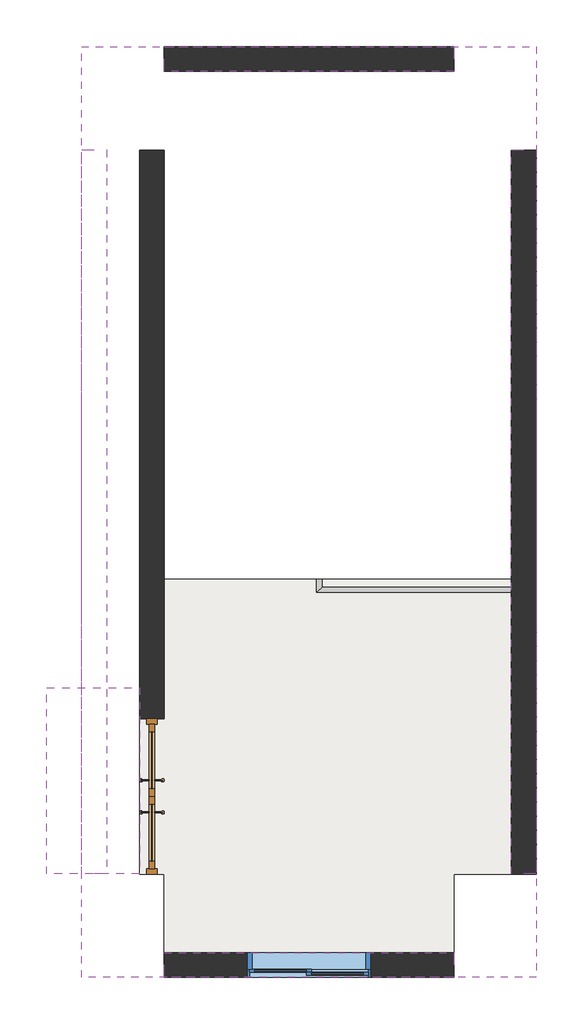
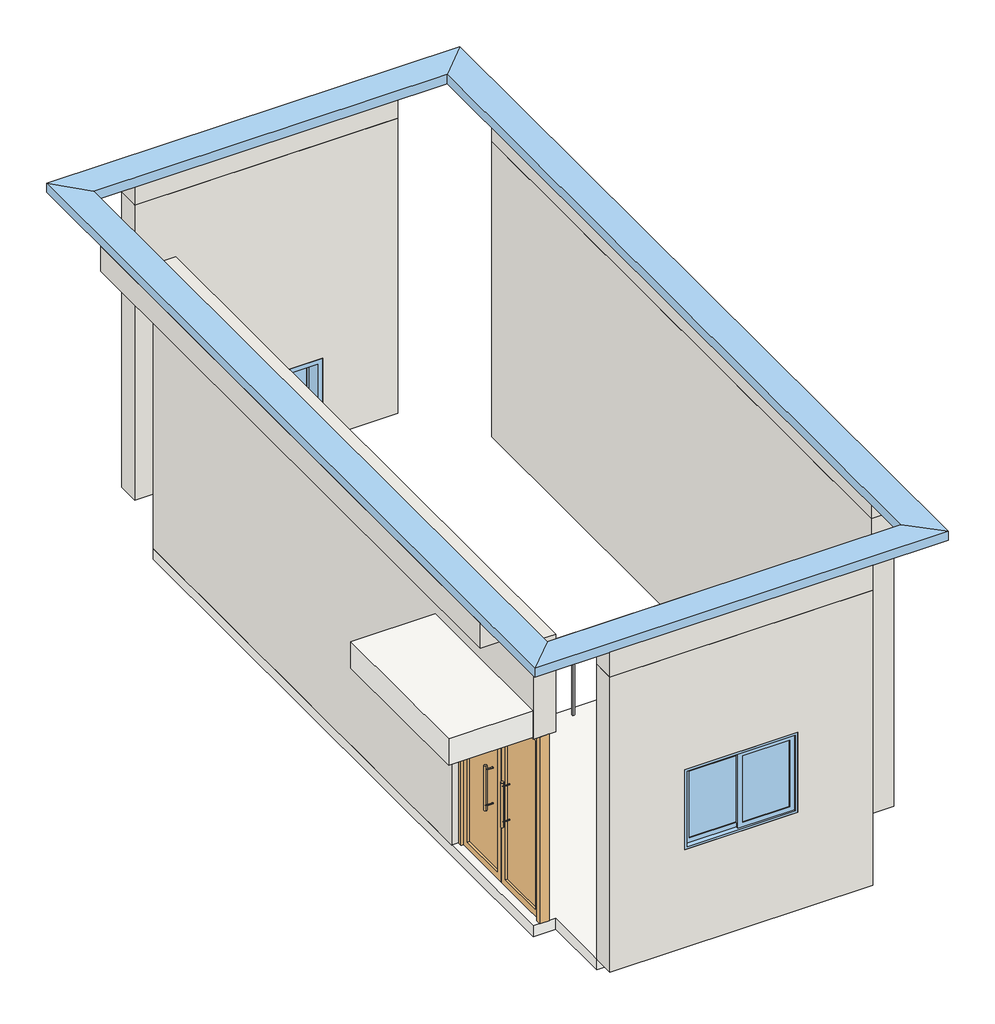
# One storey: 8 walls, 3 windows, 2 slabs, 1 door, 1 railing.
"""IFC4 building model written with IfcOpenShell, lengths in millimetres."""

from ifc_helpers import new_model, si_unit, frame, origin, place, context, project, spatial, polyline, outline, extrude, faceted_brep, transform, mapped, element, save
from components import fm1521_b0fe12bd, window_a61185c5, c1209_ef09aeb5

model = new_model("IFC4")

# Units and contexts
model_context = context("Model", 3, world=origin())
ifc_project = project(units=[si_unit("LENGTHUNIT", "METRE", prefix="MILLI")], contexts=[model_context])

# Site, building, storey
site = spatial("IfcSite", under=ifc_project)
building = spatial("IfcBuilding", under=site)
storey = spatial("IfcBuildingStorey", under=building, Name="四层", Elevation=10500.0)

# Door
placement = place(None, origin())
fm1521_shape = fm1521_b0fe12bd(model_context)
element("IfcDoor", 1, ObjectType="双面嵌板玻璃门 : FM1521", at=placement, inside=storey, context=model_context, shape_type="MappedRepresentation", body=[
    mapped(fm1521_shape, transform((26302.1385293, 1220.1856454, 10500.0), x_axis=(0.0, -1.0, 0.0), y_axis=(1.0, 0.0, 0.0), z_axis=(0.0, 0.0, 1.0))),
])

# Railing
element("IfcRailing", 2, ObjectType="900mm", at=placement, inside=storey, context=model_context, shape_type="SolidModel", body=[
    faceted_brep([(27946.7385293, 3320.1856454, 11400.0), (27946.7385293, 3320.1856454, 11350.0), (27896.7385293, 3320.1856454, 11350.0), (27896.7385293, 3320.1856454, 11400.0), (27946.7385293, 3245.1856454, 11400.0), (27946.7385293, 3245.1856454, 11350.0), (27896.7385293, 3195.1856454, 11350.0), (27896.7385293, 3195.1856454, 11400.0), (29782.1385293, 3245.1856454, 11400.0), (29782.1385293, 3195.1856454, 11400.0), (29782.1385293, 3195.1856454, 11350.0), (29782.1385293, 3245.1856454, 11350.0)], [[[0, 1, 2, 3]], [[1, 0, 4, 5]], [[2, 1, 5, 6]], [[3, 2, 6, 7]], [[0, 3, 7, 4]], [[8, 9, 10, 11]], [[5, 4, 8, 11]], [[6, 5, 11, 10]], [[7, 6, 10, 9]], [[4, 7, 9, 8]]]),
    extrude(outline(polyline([(29561.7385293, 3210.1856454), (29561.7385293, 3230.1856454), (29581.7385293, 3230.1856454), (29581.7385293, 3210.1856454), (29561.7385293, 3210.1856454)])), frame((0.0, 0.0, 10500.0), z_axis=(0.0, 0.0, 1.0), x_axis=(1.0, 0.0, 0.0)), (0.0, 0.0, 1.0), 850.0),
    extrude(outline(polyline([(29286.7385293, 3210.1856454), (29286.7385293, 3230.1856454), (29306.7385293, 3230.1856454), (29306.7385293, 3210.1856454), (29286.7385293, 3210.1856454)])), frame((0.0, 0.0, 10500.0), z_axis=(0.0, 0.0, 1.0), x_axis=(1.0, 0.0, 0.0)), (0.0, 0.0, 1.0), 850.0),
    extrude(outline(polyline([(29011.7385293, 3210.1856454), (29011.7385293, 3230.1856454), (29031.7385293, 3230.1856454), (29031.7385293, 3210.1856454), (29011.7385293, 3210.1856454)])), frame((0.0, 0.0, 10500.0), z_axis=(0.0, 0.0, 1.0), x_axis=(1.0, 0.0, 0.0)), (0.0, 0.0, 1.0), 850.0),
    extrude(outline(polyline([(28736.7385293, 3210.1856454), (28736.7385293, 3230.1856454), (28756.7385293, 3230.1856454), (28756.7385293, 3210.1856454), (28736.7385293, 3210.1856454)])), frame((0.0, 0.0, 10500.0), z_axis=(0.0, 0.0, 1.0), x_axis=(1.0, 0.0, 0.0)), (0.0, 0.0, 1.0), 850.0),
    extrude(outline(polyline([(28461.7385293, 3210.1856454), (28461.7385293, 3230.1856454), (28481.7385293, 3230.1856454), (28481.7385293, 3210.1856454), (28461.7385293, 3210.1856454)])), frame((0.0, 0.0, 10500.0), z_axis=(0.0, 0.0, 1.0), x_axis=(1.0, 0.0, 0.0)), (0.0, 0.0, 1.0), 850.0),
    extrude(outline(polyline([(28186.7385293, 3210.1856454), (28186.7385293, 3230.1856454), (28206.7385293, 3230.1856454), (28206.7385293, 3210.1856454), (28186.7385293, 3210.1856454)])), frame((0.0, 0.0, 10500.0), z_axis=(0.0, 0.0, 1.0), x_axis=(1.0, 0.0, 0.0)), (0.0, 0.0, 1.0), 850.0),
    extrude(outline(polyline([(27911.7385293, 3230.1856454), (27931.7385293, 3230.1856454), (27931.7385293, 3210.1856454), (27911.7385293, 3210.1856454), (27911.7385293, 3230.1856454)])), frame((0.0, 0.0, 10500.0), z_axis=(0.0, 0.0, 1.0), x_axis=(1.0, 0.0, 0.0)), (0.0, 0.0, 1.0), 850.0),
    extrude(outline(polyline([(29762.1385293, 3210.1856454), (29762.1385293, 3230.1856454), (29782.1385293, 3230.1856454), (29782.1385293, 3210.1856454), (29762.1385293, 3210.1856454)])), frame((0.0, 0.0, 10500.0), z_axis=(0.0, 0.0, 1.0), x_axis=(1.0, 0.0, 0.0)), (0.0, 0.0, 1.0), 850.0),
    extrude(outline(polyline([(27911.7385293, 3320.1856454), (27931.7385293, 3320.1856454), (27931.7385293, 3300.1856454), (27911.7385293, 3300.1856454), (27911.7385293, 3320.1856454)])), frame((0.0, 0.0, 10500.0), z_axis=(0.0, 0.0, 1.0), x_axis=(1.0, 0.0, 0.0)), (0.0, 0.0, 1.0), 850.0),
])

# Slabs
element("IfcSlab", 3, ObjectType="常规 - 120mm", at=placement, inside=storey, context=model_context, shape_type="SweptSolid", body=[
    extrude(outline(polyline([(29782.1385293, 470.1856454), (29222.1385293, 470.1856454), (29222.1385293, -289.8143546), (26422.1385293, -289.8143546), (26422.1385293, 470.1856454), (26182.1385293, 470.1856454), (26182.1385293, 7470.1856454), (26422.1385293, 7470.1856454), (26422.1385293, 3320.1856454), (29782.1385293, 3320.1856454), (29782.1385293, 470.1856454)])), frame((0.0, 0.0, 10380.0), z_axis=(0.0, 0.0, 1.0), x_axis=(1.0, 0.0, 0.0)), (0.0, 0.0, 1.0), 120.0),
])
element("IfcSlab", 4, ObjectType="常规 - 300mm", at=placement, inside=storey, context=model_context, shape_type="SweptSolid", body=[
    extrude(outline(polyline([(25282.1385293, 470.1856454), (25282.1385293, 2270.1856454), (26182.1385293, 2270.1856454), (26182.1385293, 470.1856454), (25282.1385293, 470.1856454)])), frame((0.0, 0.0, 12620.0), z_axis=(0.0, 0.0, 1.0), x_axis=(1.0, 0.0, 0.0)), (0.0, 0.0, 1.0), 300.0),
])

# Walls
element("IfcWall", 5, ObjectType="240mm厚墙", at=placement, inside=storey, context=model_context, shape_type="SweptSolid", body=[
    extrude(outline(polyline([(10500.0, 26422.1385293), (10500.0, 27222.1385293), (11400.0, 27222.1385293), (11400.0, 28422.1385293), (10500.0, 28422.1385293), (10500.0, 29222.1385293), (13820.0, 29222.1385293), (13820.0, 26422.1385293), (10500.0, 26422.1385293)])), frame((0.0, 8230.1856454, 0.0), z_axis=(0.0, 1.0, 0.0), x_axis=(0.0, 0.0, 1.0)), (0.0, 0.0, 1.0), 240.0),
])
element("IfcWall", 6, ObjectType="240mm厚墙", at=placement, inside=storey, context=model_context, shape_type="SweptSolid", body=[
    extrude(outline(polyline([(29782.1385293, 470.1856454), (29782.1385293, 7470.1856454), (30022.1385293, 7470.1856454), (30022.1385293, 470.1856454), (29782.1385293, 470.1856454)])), frame((0.0, 0.0, 10500.0), z_axis=(0.0, 0.0, 1.0), x_axis=(1.0, 0.0, 0.0)), (0.0, 0.0, 1.0), 3320.0),
])
element("IfcWall", 7, ObjectType="240mm厚墙", at=placement, inside=storey, context=model_context, shape_type="SweptSolid", body=[
    extrude(outline(polyline([(7470.1856454, 10500.0), (1970.1856454, 10500.0), (1970.1856454, 12600.0), (470.1856454, 12600.0), (470.1856454, 13700.0), (7470.1856454, 13700.0), (7470.1856454, 10500.0)])), frame((26182.1385293, 0.0, 0.0), z_axis=(1.0, 0.0, 0.0), x_axis=(0.0, 1.0, 0.0)), (0.0, 0.0, 1.0), 240.0),
])
element("IfcWall", 8, ObjectType="240mm厚墙", at=placement, inside=storey, context=model_context, shape_type="SweptSolid", body=[
    extrude(outline(polyline([(10500.0, 29222.1385293), (13820.0, 29222.1385293), (13820.0, 26422.1385293), (10500.0, 26422.1385293), (10500.0, 29222.1385293)]), holes=[polyline([(12500.0, 27222.1385293), (12500.0, 28422.1385293), (11600.0, 28422.1385293), (11600.0, 27222.1385293), (12500.0, 27222.1385293)])]), frame((0.0, -529.8143546, 0.0), z_axis=(0.0, 1.0, 0.0), x_axis=(0.0, 0.0, 1.0)), (0.0, 0.0, 1.0), 240.0),
])
element("IfcWall", 9, ObjectType="240mm厚墙", at=placement, inside=storey, context=model_context, shape_type="SweptSolid", body=[
    extrude(outline(polyline([(25862.1385293, 7470.1856454), (25862.1385293, 470.1856454), (25622.1385293, 470.1856454), (25622.1385293, 7470.1856454), (25862.1385293, 7470.1856454)])), frame((0.0, 0.0, 13820.0), z_axis=(0.0, 0.0, 1.0), x_axis=(1.0, 0.0, 0.0)), (0.0, 0.0, 1.0), 280.0),
])
element("IfcWall", 10, ObjectType="240mm厚墙", at=placement, inside=storey, context=model_context, shape_type="SweptSolid", body=[
    extrude(outline(polyline([(29222.1385293, 8230.1856454), (26422.1385293, 8230.1856454), (26422.1385293, 8470.1856454), (29222.1385293, 8470.1856454), (29222.1385293, 8230.1856454)])), frame((0.0, 0.0, 13820.0), z_axis=(0.0, 0.0, 1.0), x_axis=(1.0, 0.0, 0.0)), (0.0, 0.0, 1.0), 280.0),
])
element("IfcWall", 11, ObjectType="240mm厚墙", at=placement, inside=storey, context=model_context, shape_type="SweptSolid", body=[
    extrude(outline(polyline([(29782.1385293, 470.1856454), (29782.1385293, 7470.1856454), (30022.1385293, 7470.1856454), (30022.1385293, 470.1856454), (29782.1385293, 470.1856454)])), frame((0.0, 0.0, 13820.0), z_axis=(0.0, 0.0, 1.0), x_axis=(1.0, 0.0, 0.0)), (0.0, 0.0, 1.0), 280.0),
])
element("IfcWall", 12, ObjectType="240mm厚墙", at=placement, inside=storey, context=model_context, shape_type="SweptSolid", body=[
    extrude(outline(polyline([(26422.1385293, -289.8143546), (29222.1385293, -289.8143546), (29222.1385293, -529.8143546), (26422.1385293, -529.8143546), (26422.1385293, -289.8143546)])), frame((0.0, 0.0, 13820.0), z_axis=(0.0, 0.0, 1.0), x_axis=(1.0, 0.0, 0.0)), (0.0, 0.0, 1.0), 280.0),
])

# Windows
window_shape = window_a61185c5(model_context)
element("IfcWindow", 13, ObjectType="泛水 : 泛水", at=placement, inside=storey, context=model_context, shape_type="MappedRepresentation", body=[
    mapped(window_shape, transform((0.0, 0.0, 0.0), x_axis=(1.0, 0.0, 0.0), y_axis=(0.0, 1.0, 0.0), z_axis=(0.0, 0.0, 1.0))),
])
c1209_shape = c1209_ef09aeb5(model_context)
element("IfcWindow", 14, ObjectType="推拉窗6 : C1209", at=placement, inside=storey, context=model_context, shape_type="MappedRepresentation", body=[
    mapped(c1209_shape, transform((27831.6635293, -476.6877921, 9400.0), x_axis=(-1.0, 0.0, 0.0), y_axis=(0.0, -1.0, 0.0), z_axis=(0.0, 0.0, 1.0))),
])
element("IfcWindow", 15, ObjectType="推拉窗6 : C1209", at=placement, inside=storey, context=model_context, shape_type="MappedRepresentation", body=[
    mapped(c1209_shape, transform((27812.6135293, 8417.0590829, 8300.0), x_axis=(1.0, 0.0, 0.0), y_axis=(0.0, 1.0, 0.0), z_axis=(0.0, 0.0, 1.0))),
])

save(model, "model.ifc")
